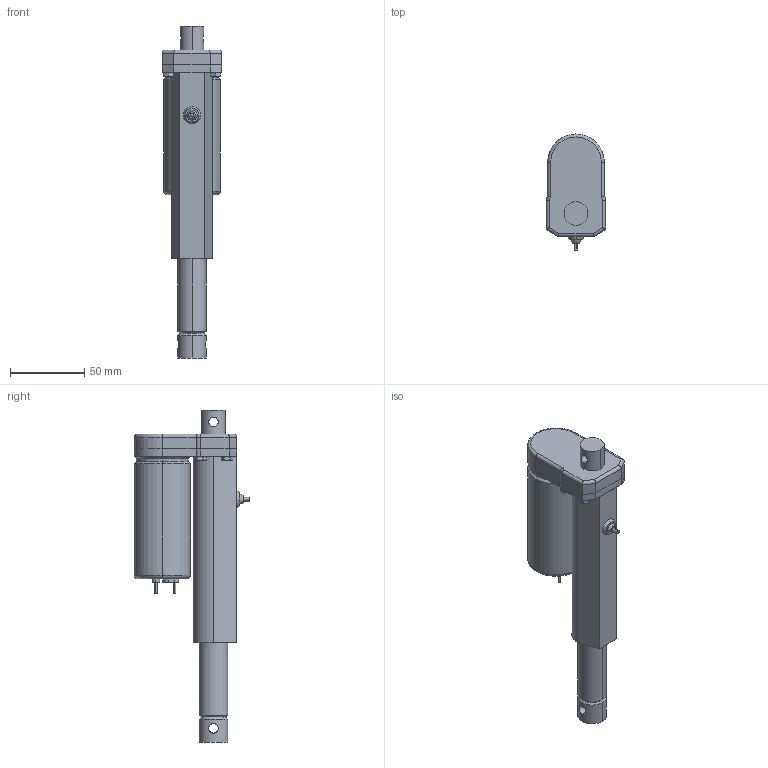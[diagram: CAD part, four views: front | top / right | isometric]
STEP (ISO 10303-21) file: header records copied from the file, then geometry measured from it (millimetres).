
FILE_DESCRIPTION (( 'STEP AP203' ), '1' );
FILE_NAME ('Electrak-LA1-S-02-Tollo.step', '2004-05-12T12:40:36', ( 'Jimmy Richardsson' ), ( 'Cevican AB' ), 'SwSTEP 2.0', 'SolidWorks 2002308', '' );
FILE_SCHEMA (( 'CONFIG_CONTROL_DESIGN' ));
Length unit declared in the file: millimetre
Products named in the file (7): Electrak-LA1-S-02-Tollo; Electrak-LA1-S-House-Tollo_Electrak-LA1-S-House-02-Tollo; Electrak-LA1-S-Rear-Tollo_Electrak-Cover-Tube-Tollo; Electrak-LA1-S-Motor-Tollo_Electrak-Cover-Tube-Tollo; Electrak-LA1-S-Tube-Tollo_Electrak-LA1-S-Tube-02-Tollo; Screw-M6S-M4_Screw-M6S-M4x12H; Electrak-LA1-S-Rod-Tollo_Electrak-LA1-S-Rod-02-Tollo
Assembly tree (9 placements, depth 3):
  Electrak-LA1-S-02-Tollo
    Electrak-LA1-S-House-Tollo_Electrak-LA1-S-House-02-Tollo
      Screw-M6S-M4_Screw-M6S-M4x12H  x4
      Electrak-LA1-S-Tube-Tollo_Electrak-LA1-S-Tube-02-Tollo
      Electrak-LA1-S-Motor-Tollo_Electrak-Cover-Tube-Tollo
      Electrak-LA1-S-Rear-Tollo_Electrak-Cover-Tube-Tollo
    Electrak-LA1-S-Rod-Tollo_Electrak-LA1-S-Rod-02-Tollo
Bounding box: 40 x 78 x 223.4 mm (x, y, z)
Volume: 204018.7 mm3; surface area: 52442.1 mm2
Topology: 8 solids, 8 shells, 239 faces, 545 edges, 342 vertices
Faces by surface type: cylinder 112, plane 78, cone 44, torus 5
Entity records: 5235 total; most frequent: CARTESIAN_POINT 1015, DIRECTION 780, ORIENTED_EDGE 658, EDGE_CURVE 329, AXIS2_PLACEMENT_3D 312, VERTEX_POINT 207, EDGE_LOOP 174, LINE 156
